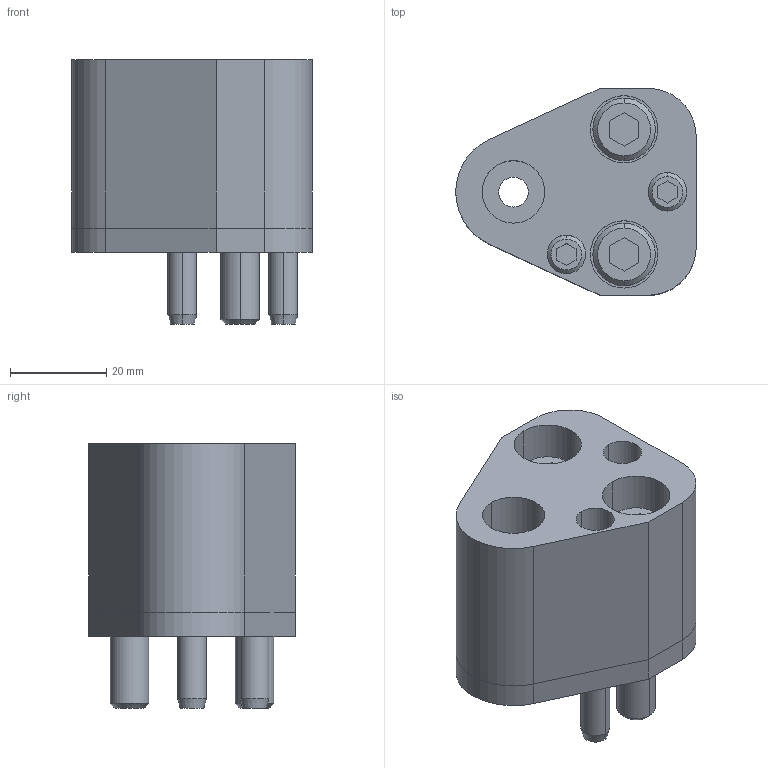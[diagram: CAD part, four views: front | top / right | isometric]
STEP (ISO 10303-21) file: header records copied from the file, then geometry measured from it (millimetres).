
FILE_DESCRIPTION(/* description */ (''),/* implementation_level */ '2;1');
FILE_NAME(/* name */ '3d_hap-ap13_02768_r00.stp',/* time_stamp */ '2011-01-10T14:14:59+09:00',/* author */ ('MISUMI'),/* organization */ (''),/* preprocessor_version */ 'ST-DEVELOPER v11',/* originating_system */ 'UGS - NX 5.0',/* authorisation */ '');
FILE_SCHEMA (('CONFIG_CONTROL_DESIGN'));
Length unit declared in the file: millimetre
Products named in the file (1): 3d_hap-ap13_02768_r00
Bounding box: 50 x 43 x 55 mm (x, y, z)
Volume: 57678.4 mm3; surface area: 23225.4 mm2
Topology: 8 solids, 8 shells, 155 faces, 346 edges, 222 vertices
Faces by surface type: plane 67, cylinder 62, cone 26
Entity records: 4474 total; most frequent: DIRECTION 804, CARTESIAN_POINT 772, ORIENTED_EDGE 692, EDGE_CURVE 346, AXIS2_PLACEMENT_3D 306, VERTEX_POINT 222, LINE 192, VECTOR 192
